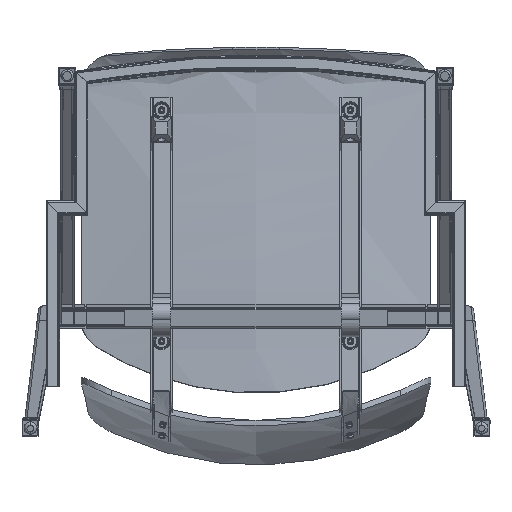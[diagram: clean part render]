
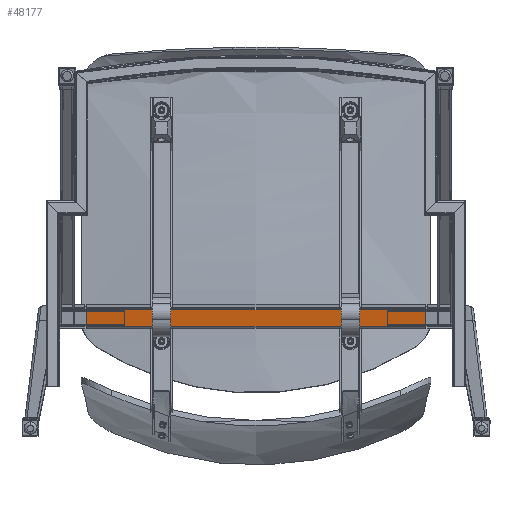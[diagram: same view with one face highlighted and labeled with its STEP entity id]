
A CAD part, front view. The second image highlights one B-rep face of the part: STEP entity #48177.
In plain terms, the highlighted planar face has unit normal (0, -0.985, -0.174).
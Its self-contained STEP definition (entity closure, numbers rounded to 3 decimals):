
#2086 = FACE_OUTER_BOUND ( 'NONE', #43933, .T. ) ;
#5384 = ORIENTED_EDGE ( 'NONE', *, *, #58883, .T. ) ;
#5602 = CARTESIAN_POINT ( 'NONE',  ( -201., -10.574, -12.019 ) ) ;
#5778 = CARTESIAN_POINT ( 'NONE',  ( 201., -14.047, 7.677 ) ) ;
#7112 = ORIENTED_EDGE ( 'NONE', *, *, #32277, .F. ) ;
#12342 = CARTESIAN_POINT ( 'NONE',  ( 201., -10.574, -12.019 ) ) ;
#14914 = VECTOR ( 'NONE', #18628, 1000. ) ;
#15558 = VERTEX_POINT ( 'NONE', #41241 ) ;
#16694 = LINE ( 'NONE', #29557, #48499 ) ;
#16871 = DIRECTION ( 'NONE',  ( 0., 0.985, 0.174 ) ) ;
#18628 = DIRECTION ( 'NONE',  ( 0., 0.174, -0.985 ) ) ;
#24058 = CARTESIAN_POINT ( 'NONE',  ( 201., -10.574, -12.019 ) ) ;
#26136 = VERTEX_POINT ( 'NONE', #70988 ) ;
#26550 = CARTESIAN_POINT ( 'NONE',  ( -201., -14.047, 7.677 ) ) ;
#27609 = EDGE_CURVE ( 'NONE', #68752, #60804, #58222, .T. ) ;
#29557 = CARTESIAN_POINT ( 'NONE',  ( 201., -14.047, 7.677 ) ) ;
#32277 = EDGE_CURVE ( 'NONE', #26136, #68752, #53813, .T. ) ;
#32520 = ORIENTED_EDGE ( 'NONE', *, *, #51811, .F. ) ;
#34629 = DIRECTION ( 'NONE',  ( -1., 0., 0. ) ) ;
#39707 = DIRECTION ( 'NONE',  ( 0., 0.174, -0.985 ) ) ;
#41241 = CARTESIAN_POINT ( 'NONE',  ( -201., -14.047, 7.677 ) ) ;
#43933 = EDGE_LOOP ( 'NONE', ( #79534, #7112, #32520, #5384 ) ) ;
#48177 = ADVANCED_FACE ( 'NONE', ( #2086 ), #68529, .F. ) ;
#48499 = VECTOR ( 'NONE', #52710, 1000. ) ;
#49194 = VECTOR ( 'NONE', #39707, 1000. ) ;
#51811 = EDGE_CURVE ( 'NONE', #15558, #26136, #16694, .T. ) ;
#52710 = DIRECTION ( 'NONE',  ( 1., 0., 0. ) ) ;
#53813 = LINE ( 'NONE', #5778, #14914 ) ;
#58222 = LINE ( 'NONE', #12342, #67359 ) ;
#58883 = EDGE_CURVE ( 'NONE', #15558, #60804, #63442, .T. ) ;
#60804 = VERTEX_POINT ( 'NONE', #5602 ) ;
#63442 = LINE ( 'NONE', #26550, #49194 ) ;
#64870 = AXIS2_PLACEMENT_3D ( 'NONE', #68247, #16871, #75121 ) ;
#67359 = VECTOR ( 'NONE', #34629, 1000. ) ;
#68247 = CARTESIAN_POINT ( 'NONE',  ( 201., -10.574, -12.019 ) ) ;
#68529 = PLANE ( 'NONE',  #64870 ) ;
#68752 = VERTEX_POINT ( 'NONE', #24058 ) ;
#70988 = CARTESIAN_POINT ( 'NONE',  ( 201., -14.047, 7.677 ) ) ;
#75121 = DIRECTION ( 'NONE',  ( 0., -0.174, 0.985 ) ) ;
#79534 = ORIENTED_EDGE ( 'NONE', *, *, #27609, .F. ) ;
